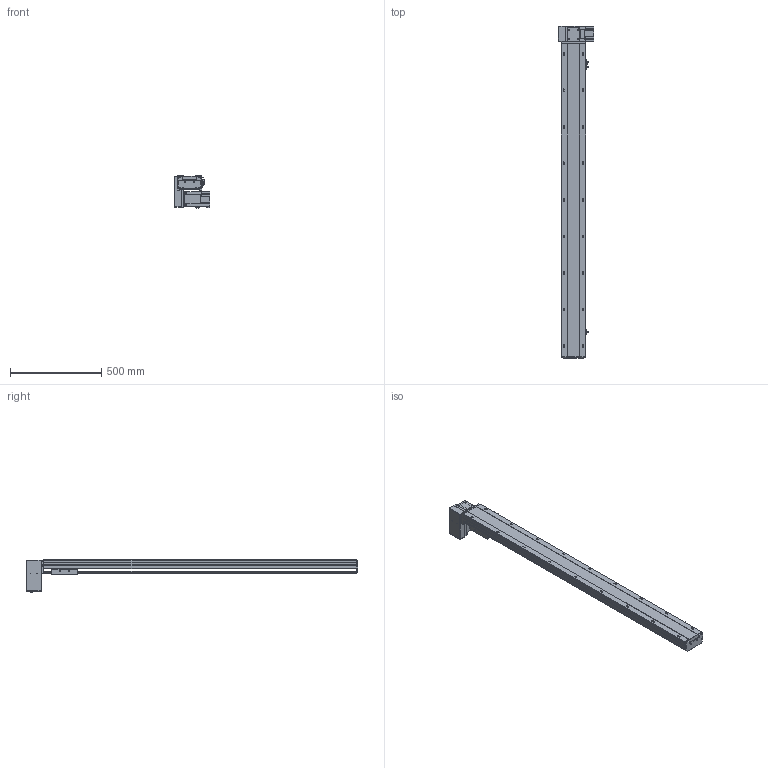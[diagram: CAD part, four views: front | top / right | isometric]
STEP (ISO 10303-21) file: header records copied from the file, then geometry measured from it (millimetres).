
FILE_DESCRIPTION (( 'STEP AP203' ), '1' );
FILE_NAME ('29.STEP', '2020-10-27T10:52:32', ( '' ), ( '' ), 'SwSTEP 2.0', 'SolidWorks 2016', '' );
FILE_SCHEMA (( 'CONFIG_CONTROL_DESIGN' ));
Length unit declared in the file: millimetre
Products named in the file (12): BTB14-LU-04; BTB14-LU-菁釱; BTB14-LU-24; FS-08-T75; BTB14-LU-23; BTB14-LU-06; FS-33-T75; 29; FS-07-T75; BTB14-LU-T75; BTB14-LU-01; BTB14-LU-HZ
Assembly tree (14 placements, depth 2):
  29
    BTB14-LU-菁釱
    BTB14-LU-01
    BTB14-LU-04  x3
    BTB14-LU-06
    BTB14-LU-23  x2
    BTB14-LU-24
    BTB14-LU-HZ
    FS-07-T75
    FS-08-T75
    FS-33-T75
    BTB14-LU-T75
Bounding box: 191.8 x 1818 x 175.5 mm (x, y, z)
Volume: 8528050.4 mm3; surface area: 1728319.1 mm2
Topology: 24 solids, 24 shells, 1810 faces, 4763 edges, 3052 vertices
Faces by surface type: plane 1033, cylinder 506, cone 132, bspline 127, torus 12
Entity records: 53448 total; most frequent: CARTESIAN_POINT 16507, ORIENTED_EDGE 7432, DIRECTION 7174, EDGE_CURVE 3716, LINE 2504, VECTOR 2504, VERTEX_POINT 2430, AXIS2_PLACEMENT_3D 2335
